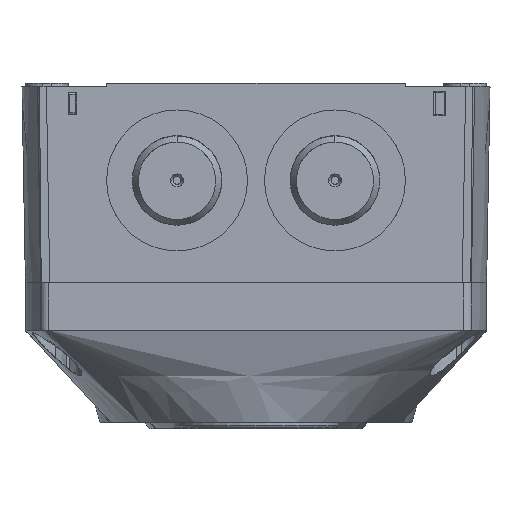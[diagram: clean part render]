
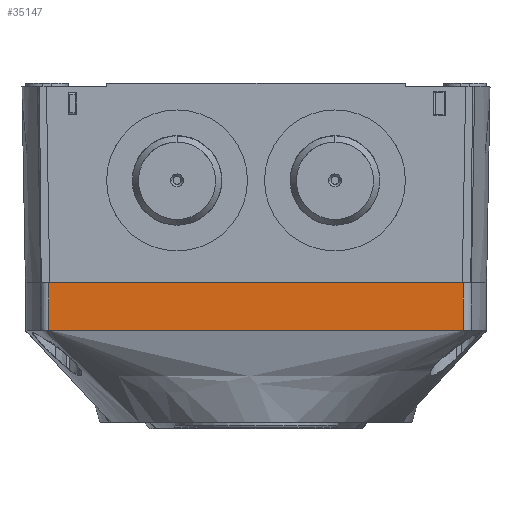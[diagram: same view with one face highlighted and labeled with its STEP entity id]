
A CAD part, top view. The second image highlights one B-rep face of the part: STEP entity #35147.
In plain terms, the highlighted planar face has unit normal (0, -0.009, 1).
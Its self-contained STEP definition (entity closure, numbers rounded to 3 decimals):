
#1814 = EDGE_CURVE ( 'NONE', #82269, #32064, #53126, .T. ) ;
#3267 = CARTESIAN_POINT ( 'NONE',  ( -48.461, -11.112, 301.703 ) ) ;
#4063 = CARTESIAN_POINT ( 'NONE',  ( 40.484, -11.138, 301.703 ) ) ;
#4423 = CARTESIAN_POINT ( 'NONE',  ( -16.118, -11.264, 301.702 ) ) ;
#5534 = CARTESIAN_POINT ( 'NONE',  ( 46.801, -11.116, 301.703 ) ) ;
#7472 = EDGE_CURVE ( 'NONE', #66273, #48860, #104834, .T. ) ;
#7737 = EDGE_CURVE ( 'NONE', #48860, #82269, #46835, .T. ) ;
#8252 = VERTEX_POINT ( 'NONE', #67549 ) ;
#9041 = CARTESIAN_POINT ( 'NONE',  ( 33., 0., 301.8 ) ) ;
#9422 = PLANE ( 'NONE',  #42896 ) ;
#11730 = VECTOR ( 'NONE', #16093, 1000. ) ;
#13236 = CARTESIAN_POINT ( 'NONE',  ( -48.57, 0., 301.8 ) ) ;
#14237 = CARTESIAN_POINT ( 'NONE',  ( -40.375, -11.134, 301.703 ) ) ;
#16093 = DIRECTION ( 'NONE',  ( 0., -1., -0.009 ) ) ;
#22059 = CARTESIAN_POINT ( 'NONE',  ( 48.57, 0., 301.8 ) ) ;
#27138 = FACE_OUTER_BOUND ( 'NONE', #96291, .T. ) ;
#28234 = ORIENTED_EDGE ( 'NONE', *, *, #95846, .F. ) ;
#29986 = DIRECTION ( 'NONE',  ( 0., -1., -0.009 ) ) ;
#30083 = CARTESIAN_POINT ( 'NONE',  ( 16.226, -11.266, 301.702 ) ) ;
#30803 = CARTESIAN_POINT ( 'NONE',  ( 48.444, -11.112, 301.703 ) ) ;
#32064 = VERTEX_POINT ( 'NONE', #3267 ) ;
#33652 = B_SPLINE_CURVE_WITH_KNOTS ( 'NONE', 3,
 ( #81693, #82421, #30803, #47125, #39517, #99707, #5534, #47478, #108419, #4063, #48236, #91816, #64395, #30083, #47866, #39151, #4423, #64736, #14237, #82798 ),
 .UNSPECIFIED., .F., .F.,
 ( 4, 2, 1, 1, 1, 1, 2, 2, 2, 2, 2, 4 ),
 ( 0.016, 0.016, 0.016, 0.017, 0.017, 0.019, 0.022, 0.028, 0.04, 0.064, 0.088, 0.112 ),
 .UNSPECIFIED. ) ;
#35147 = ADVANCED_FACE ( 'NONE', ( #27138 ), #9422, .T. ) ;
#35451 = DIRECTION ( 'NONE',  ( 0., -0.009, 1. ) ) ;
#39151 = CARTESIAN_POINT ( 'NONE',  ( -8.032, -11.328, 301.701 ) ) ;
#39217 = CARTESIAN_POINT ( 'NONE',  ( -48.534, -11.11, 301.703 ) ) ;
#39517 = CARTESIAN_POINT ( 'NONE',  ( 48.128, -11.112, 301.703 ) ) ;
#42896 = AXIS2_PLACEMENT_3D ( 'NONE', #9041, #35451, #77224 ) ;
#46835 = LINE ( 'NONE', #50461, #11730 ) ;
#47125 = CARTESIAN_POINT ( 'NONE',  ( 48.318, -11.112, 301.703 ) ) ;
#47478 = CARTESIAN_POINT ( 'NONE',  ( 45.033, -11.122, 301.703 ) ) ;
#47866 = CARTESIAN_POINT ( 'NONE',  ( 8.14, -11.33, 301.701 ) ) ;
#48229 = EDGE_CURVE ( 'NONE', #66273, #8252, #63588, .T. ) ;
#48236 = CARTESIAN_POINT ( 'NONE',  ( 38.463, -11.145, 301.703 ) ) ;
#48680 = CARTESIAN_POINT ( 'NONE',  ( -48.497, -11.111, 301.703 ) ) ;
#48860 = VERTEX_POINT ( 'NONE', #13236 ) ;
#50461 = CARTESIAN_POINT ( 'NONE',  ( -48.57, 0., 301.8 ) ) ;
#53126 = B_SPLINE_CURVE_WITH_KNOTS ( 'NONE', 3,
 ( #74925, #39217, #48680, #99409 ),
 .UNSPECIFIED., .F., .F.,
 ( 4, 4 ),
 ( 0., 0. ),
 .UNSPECIFIED. ) ;
#55955 = ORIENTED_EDGE ( 'NONE', *, *, #7737, .T. ) ;
#56687 = DIRECTION ( 'NONE',  ( -1., 0., 0. ) ) ;
#63588 = LINE ( 'NONE', #22059, #102580 ) ;
#64395 = CARTESIAN_POINT ( 'NONE',  ( 28.355, -11.193, 301.702 ) ) ;
#64736 = CARTESIAN_POINT ( 'NONE',  ( -32.289, -11.168, 301.703 ) ) ;
#66273 = VERTEX_POINT ( 'NONE', #86091 ) ;
#67141 = ORIENTED_EDGE ( 'NONE', *, *, #48229, .F. ) ;
#67549 = CARTESIAN_POINT ( 'NONE',  ( 48.57, -11.108, 301.703 ) ) ;
#69263 = CARTESIAN_POINT ( 'NONE',  ( -48.57, -11.108, 301.703 ) ) ;
#74295 = CARTESIAN_POINT ( 'NONE',  ( 33., 0., 301.8 ) ) ;
#74925 = CARTESIAN_POINT ( 'NONE',  ( -48.57, -11.108, 301.703 ) ) ;
#77224 = DIRECTION ( 'NONE',  ( 0., -1., -0.009 ) ) ;
#81693 = CARTESIAN_POINT ( 'NONE',  ( 48.57, -11.108, 301.703 ) ) ;
#82269 = VERTEX_POINT ( 'NONE', #69263 ) ;
#82421 = CARTESIAN_POINT ( 'NONE',  ( 48.507, -11.112, 301.703 ) ) ;
#82798 = CARTESIAN_POINT ( 'NONE',  ( -48.461, -11.112, 301.703 ) ) ;
#86091 = CARTESIAN_POINT ( 'NONE',  ( 48.57, 0., 301.8 ) ) ;
#89999 = VECTOR ( 'NONE', #56687, 1000. ) ;
#91816 = CARTESIAN_POINT ( 'NONE',  ( 32.398, -11.172, 301.703 ) ) ;
#92427 = ORIENTED_EDGE ( 'NONE', *, *, #1814, .T. ) ;
#95846 = EDGE_CURVE ( 'NONE', #8252, #32064, #33652, .T. ) ;
#96291 = EDGE_LOOP ( 'NONE', ( #92427, #28234, #67141, #102310, #55955 ) ) ;
#99409 = CARTESIAN_POINT ( 'NONE',  ( -48.461, -11.112, 301.703 ) ) ;
#99707 = CARTESIAN_POINT ( 'NONE',  ( 47.686, -11.114, 301.703 ) ) ;
#102310 = ORIENTED_EDGE ( 'NONE', *, *, #7472, .T. ) ;
#102580 = VECTOR ( 'NONE', #29986, 1000. ) ;
#104834 = LINE ( 'NONE', #74295, #89999 ) ;
#108419 = CARTESIAN_POINT ( 'NONE',  ( 43.516, -11.127, 301.703 ) ) ;
